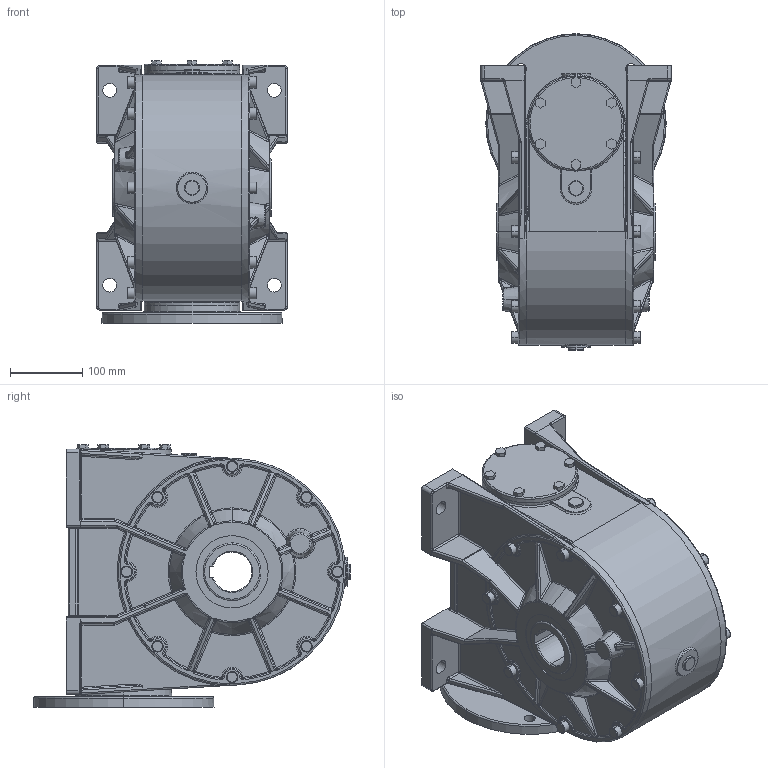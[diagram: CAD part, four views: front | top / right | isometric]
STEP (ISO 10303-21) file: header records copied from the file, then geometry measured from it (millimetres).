
FILE_DESCRIPTION (( 'STEP AP214' ), '1' );
FILE_NAME ('Sestava MRT150-B.STEP', '2007-07-04T04:27:45', ( '' ), ( '' ), 'SwSTEP 2.0', 'SolidWorks 2004146', '' );
FILE_SCHEMA (( 'AUTOMOTIVE_DESIGN' ));
Length unit declared in the file: millimetre
Products named in the file (3): Patka 150_Výchozí; Skrin MRT150_Mrt150-215-AP100; Sestava MRT150-B
Assembly tree (3 placements, depth 2):
  Sestava MRT150-B
    Patka 150_Výchozí  x2
    Skrin MRT150_Mrt150-215-AP100
Bounding box: 264 x 439 x 364.3 mm (x, y, z)
Volume: 18780668.7 mm3; surface area: 1152505.5 mm2
Topology: 3 solids, 3 shells, 1314 faces, 3129 edges, 1819 vertices
Faces by surface type: torus 395, cylinder 277, bspline 256, plane 213, sphere 120, cone 53
Entity records: 105496 total; most frequent: CARTESIAN_POINT 88570, DIRECTION 3594, ORIENTED_EDGE 3560, EDGE_CURVE 1780, AXIS2_PLACEMENT_3D 1579, VERTEX_POINT 1051, CIRCLE 950, EDGE_LOOP 797
